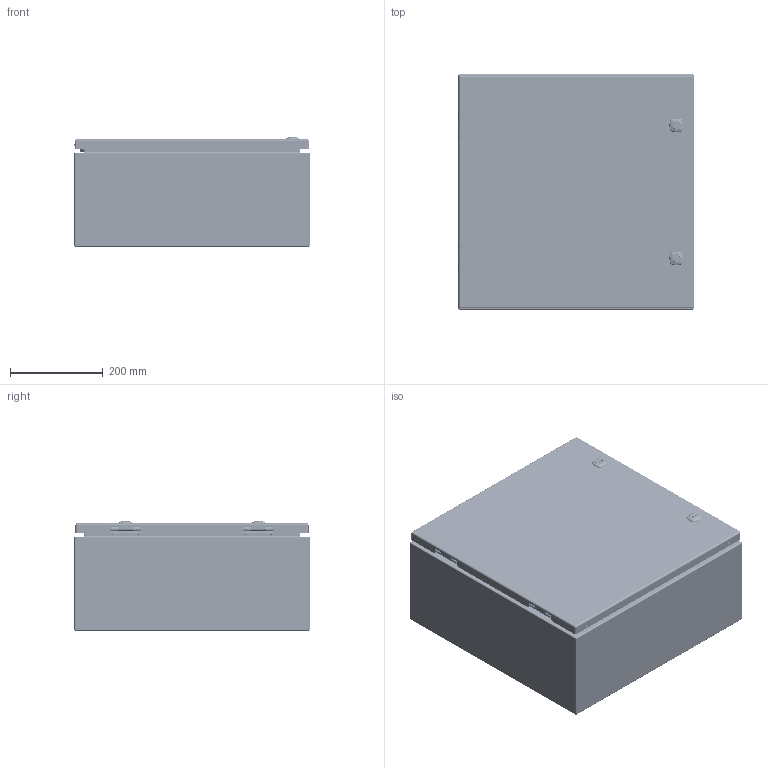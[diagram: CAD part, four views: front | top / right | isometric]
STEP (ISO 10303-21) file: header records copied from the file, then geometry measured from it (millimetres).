
FILE_DESCRIPTION(/* description */ ('5412ES 20" x 20" x 8" Assembly'),/* implementation_level */ '2;1');
FILE_NAME(/* name */ '5412ES202008.stp',/* time_stamp */ '2024-10-21T10:26:36-04:00',/* author */ ('BoxCad'),/* organization */ (''),/* preprocessor_version */ 'ST-DEVELOPER v20',/* originating_system */ 'Autodesk Inventor 2024',/* authorisation */ '');
FILE_SCHEMA (('AUTOMOTIVE_DESIGN { 1 0 10303 214 3 1 1 }'));
Products named in the file (44): 5412ES202008; 5412ES202008B; 5412ES202008B-P; STK-Q-16005; STUD_M6 x 16mm; 5412ES202008C; 5412ES202008C-P; 5412ES202008G; STK-K-09800-1; STK-K-09800-2; STK-Q-33014; STK-Q-90398; STK-Q-40095; STK-Q-63410; STK-Q-16055; STK-Q-46020-20; STK-Q-07220-1; STK-Q-07220-2; STK-Q-07220-3; STK-Q-07220-4; STK-Q-07220-A; STK-Q-07220-B; STK-P-02400S; STK-S-00100; STK-K-12500; STK-Q-78111; STK-Q-78141; STK-Q-78120; STK-Q-78145; STK-Q-03610; STK-Q-78160; STK-Q-90390; STK-Q-78111-R; STK-Q-04050-08-1; STK-Q-04050-08-2; STK-Q-04050-08-P; STK-Q-04051-N; STK-A-01800; 880 PP; 5412ES202008IPK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
Assembly tree (74 placements, depth 4):
  5412ES202008
    5412ES202008B
      5412ES202008B-P
      STK-Q-16005  x4
      STK-P-02400S
      STUD_M6 x 16mm
    5412ES202008C
      5412ES202008C-P
      5412ES202008G
      STK-K-09800-1
        STK-Q-33014
        STK-Q-90398
        STK-Q-40095  x2
        STK-Q-63410  x2
      STK-K-09800-2
        STK-Q-33014
        STK-Q-90398
        STK-Q-40095  x2
        STK-Q-63410  x2
      STK-Q-16055  x4
      STK-Q-46020-20  x2
      STK-Q-07220-1
        STK-Q-07220-A
        STK-Q-07220-B
      STK-Q-07220-2
        STK-Q-07220-A
        STK-Q-07220-B
      STK-Q-07220-3
        STK-Q-07220-A
        STK-Q-07220-B
      STK-Q-07220-4
        STK-Q-07220-A
        STK-Q-07220-B
      STK-P-02400S
      STK-S-00100
      STK-K-12500  x2
        STK-Q-78111
        STK-Q-78141
        STK-Q-78120
        STK-Q-78145
        STK-Q-03610
        STK-Q-78160
        STK-Q-90390
        STK-Q-78111-R
    STK-Q-04050-08-1
      STK-Q-04050-08-P
      STK-Q-04051-N
    STK-Q-04050-08-2
      STK-Q-04050-08-P
      STK-Q-04051-N
    STK-A-01800
    880 PP
    5412ES202008IPK
      STK-Q-07610  x4
      STK-Q-07310  x4
    881SP2020G
      881SP2020G-P
Bounding box: 508.07 x 508 x 236.47 mm (x, y, z)
Volume: 2140898.1 mm3; surface area: 2703116.3 mm2
Topology: 64 solids, 64 shells, 9950 faces, 26198 edges, 16383 vertices
Faces by surface type: bspline 3432, plane 2993, cylinder 2507, torus 662, sphere 220, cone 136
Full cylindrical faces by diameter (mm): 0.75 x9, 0.762 x9, 1 x8, 1.1 x8, 3.2 x4, 4.191 x32, 4.5 x4, 4.521 x8, 4.75 x2, 4.85 x16, 4.95 x4, 5 x4, 5.1 x30, 5.156 x4, 5.6 x2, 5.9 x31, 6.015 x32, 6.65 x4, 6.8 x4, 6.85 x16, 7.3 x2, 7.366 x4, 7.9 x8, 8 x12, 8.382 x2, 9.5 x4, 9.6 x2, 9.906 x4, 10 x2, 12 x2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
Entity records: 153838 total; most frequent: CARTESIAN_POINT 62199, ORIENTED_EDGE 20700, DIRECTION 15359, EDGE_CURVE 10350, VERTEX_POINT 6459, AXIS2_PLACEMENT_3D 5705, EDGE_LOOP 4289, FACE_OUTER_BOUND 4057
